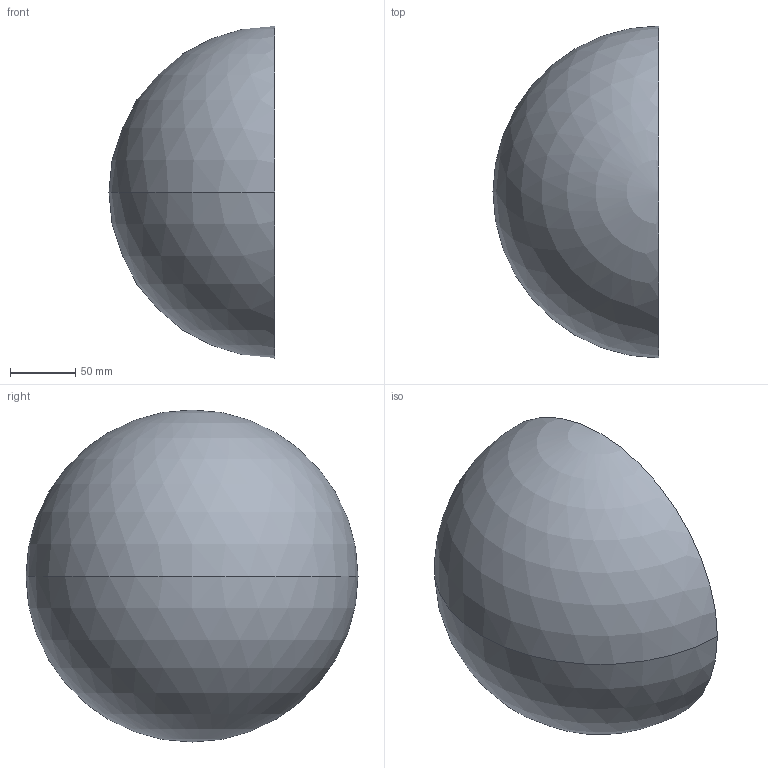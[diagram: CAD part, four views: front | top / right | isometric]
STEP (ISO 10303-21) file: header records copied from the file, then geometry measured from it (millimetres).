
FILE_DESCRIPTION (( 'STEP AP214' ), '1' );
FILE_NAME ('Solid Sphere + Magnet A WV 3 Left Half.STEP', '2014-08-05T19:52:58', ( 'ebrady' ), ( '' ), 'SwSTEP 2.0', 'SolidWorks 2013', '' );
FILE_SCHEMA (( 'AUTOMOTIVE_DESIGN' ));
Length unit declared in the file: millimetre
Products named in the file (5): Magnet A WV; WV; CoreA; Solid Sphere - Magnet A WV; Solid Sphere + Magnet A WV 3 Left Half
Assembly tree (4 placements, depth 3):
  Solid Sphere + Magnet A WV 3 Left Half
    Solid Sphere - Magnet A WV
    Magnet A WV
      CoreA
      WV
Bounding box: 127 x 254 x 254 mm (x, y, z)
Volume: 4290123.3 mm3; surface area: 221127.1 mm2
Topology: 3 solids, 3 shells, 68 faces, 187 edges, 124 vertices
Faces by surface type: plane 46, cylinder 20, sphere 2
Entity records: 2310 total; most frequent: CARTESIAN_POINT 380, DIRECTION 376, ORIENTED_EDGE 366, EDGE_CURVE 183, VECTOR 140, LINE 140, VERTEX_POINT 122, AXIS2_PLACEMENT_3D 118
